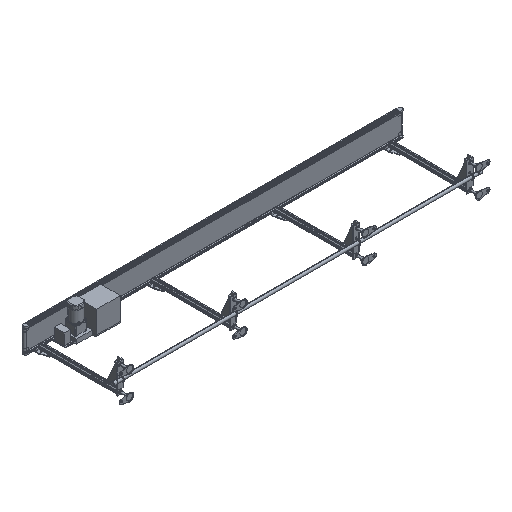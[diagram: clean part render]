
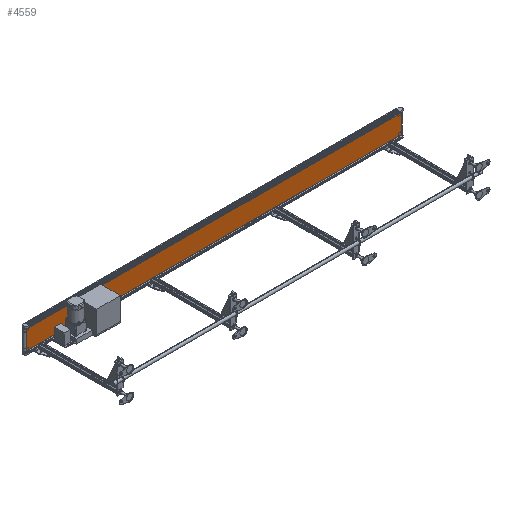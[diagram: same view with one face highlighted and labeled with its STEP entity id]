
A CAD part, isometric view. The second image highlights one B-rep face of the part: STEP entity #4559.
In plain terms, the highlighted planar face has unit normal (0, -1, 0).
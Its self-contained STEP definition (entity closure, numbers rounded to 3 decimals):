
#4559=ADVANCED_FACE('',(#25913),#25912,.F.);
#25912=PLANE('',#40133);
#25913=FACE_OUTER_BOUND('',#40134,.T.);
#40130=CARTESIAN_POINT('',(4.,-26.8,-85.));
#40131=DIRECTION('',(0.,1.,0.));
#40132=DIRECTION('',(0.,0.,1.));
#40133=AXIS2_PLACEMENT_3D('',#40130,#40131,#40132);
#40134=EDGE_LOOP('',(#50866,#50867,#50868,#50869));
#50866=ORIENTED_EDGE('',*,*,#56714,.T.);
#50867=ORIENTED_EDGE('',*,*,#56708,.F.);
#50868=ORIENTED_EDGE('',*,*,#56709,.F.);
#50869=ORIENTED_EDGE('',*,*,#56704,.T.);
#56704=EDGE_CURVE('',#89788,#89781,#89789,.T.);
#56708=EDGE_CURVE('',#89808,#89801,#89815,.T.);
#56709=EDGE_CURVE('',#89788,#89808,#89821,.T.);
#56714=EDGE_CURVE('',#89781,#89801,#89855,.T.);
#89781=VERTEX_POINT('',#112765);
#89788=VERTEX_POINT('',#112770);
#89789=LINE('',#112771,#112772);
#89801=VERTEX_POINT('',#112778);
#89808=VERTEX_POINT('',#112783);
#89815=LINE('',#112788,#112789);
#89821=LINE('',#112791,#112792);
#89855=LINE('',#112812,#112813);
#112765=CARTESIAN_POINT('',(14.,-26.8,-75.));
#112770=CARTESIAN_POINT('',(14.,-26.8,75.));
#112771=CARTESIAN_POINT('',(14.,-26.8,75.));
#112772=VECTOR('',#112773,150.);
#112773=DIRECTION('',(0.,0.,-1.));
#112778=CARTESIAN_POINT('',(2986.,-26.8,-75.));
#112783=CARTESIAN_POINT('',(2986.,-26.8,75.));
#112788=CARTESIAN_POINT('',(2986.,-26.8,75.));
#112789=VECTOR('',#112790,150.);
#112790=DIRECTION('',(0.,0.,-1.));
#112791=CARTESIAN_POINT('',(14.,-26.8,75.));
#112792=VECTOR('',#112793,2972.);
#112793=DIRECTION('',(1.,0.,0.));
#112812=CARTESIAN_POINT('',(14.,-26.8,-75.));
#112813=VECTOR('',#112814,2972.);
#112814=DIRECTION('',(1.,0.,0.));
